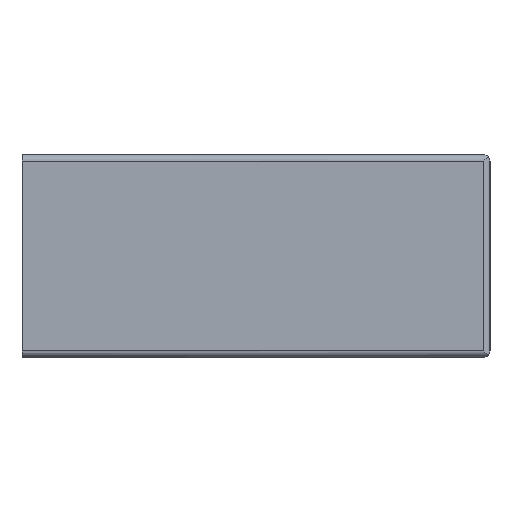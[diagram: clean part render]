
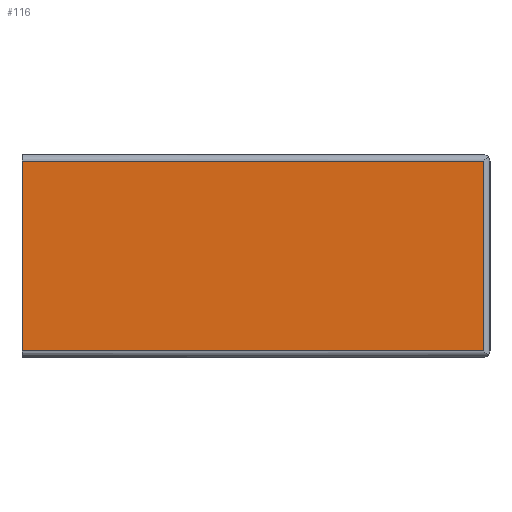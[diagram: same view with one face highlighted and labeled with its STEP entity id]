
A CAD part, left-side view. The second image highlights one B-rep face of the part: STEP entity #116.
In plain terms, the highlighted planar face has unit normal (-1, 0, 0).
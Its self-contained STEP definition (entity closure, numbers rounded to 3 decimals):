
#116 = ADVANCED_FACE( '', ( #234 ), #235, .F. );
#234 = FACE_OUTER_BOUND( '', #347, .T. );
#235 = PLANE( '', #348 );
#347 = EDGE_LOOP( '', ( #614, #615, #616, #617 ) );
#348 = AXIS2_PLACEMENT_3D( '', #618, #619, #620 );
#614 = ORIENTED_EDGE( '', *, *, #767, .F. );
#615 = ORIENTED_EDGE( '', *, *, #756, .T. );
#616 = ORIENTED_EDGE( '', *, *, #747, .T. );
#617 = ORIENTED_EDGE( '', *, *, #695, .F. );
#618 = CARTESIAN_POINT( '', ( -7.5, 0., 8. ) );
#619 = DIRECTION( '', ( 1., 0., 0. ) );
#620 = DIRECTION( '', ( 0., 0., -1. ) );
#695 = EDGE_CURVE( '', #831, #833, #834, .T. );
#747 = EDGE_CURVE( '', #905, #833, #910, .T. );
#756 = EDGE_CURVE( '', #918, #905, #922, .T. );
#767 = EDGE_CURVE( '', #918, #831, #933, .T. );
#831 = VERTEX_POINT( '', #1013 );
#833 = VERTEX_POINT( '', #1015 );
#834 = LINE( '', #1016, #1017 );
#905 = VERTEX_POINT( '', #1109 );
#910 = LINE( '', #1115, #1116 );
#918 = VERTEX_POINT( '', #1127 );
#922 = LINE( '', #1131, #1132 );
#933 = LINE( '', #1146, #1147 );
#1013 = CARTESIAN_POINT( '', ( -7.5, -36.5, -7.5 ) );
#1015 = CARTESIAN_POINT( '', ( -7.5, 0., -7.5 ) );
#1016 = CARTESIAN_POINT( '', ( -7.5, -75., -7.5 ) );
#1017 = VECTOR( '', #1201, 1000. );
#1109 = CARTESIAN_POINT( '', ( -7.5, 0., 7.5 ) );
#1115 = CARTESIAN_POINT( '', ( -7.5, 0., 8. ) );
#1116 = VECTOR( '', #1278, 1000. );
#1127 = CARTESIAN_POINT( '', ( -7.5, -36.5, 7.5 ) );
#1131 = CARTESIAN_POINT( '', ( -7.5, -75., 7.5 ) );
#1132 = VECTOR( '', #1288, 1000. );
#1146 = CARTESIAN_POINT( '', ( -7.5, -36.5, 8. ) );
#1147 = VECTOR( '', #1295, 1000. );
#1201 = DIRECTION( '', ( 0., 1., 0. ) );
#1278 = DIRECTION( '', ( 0., 0., -1. ) );
#1288 = DIRECTION( '', ( 0., 1., 0. ) );
#1295 = DIRECTION( '', ( 0., 0., -1. ) );
